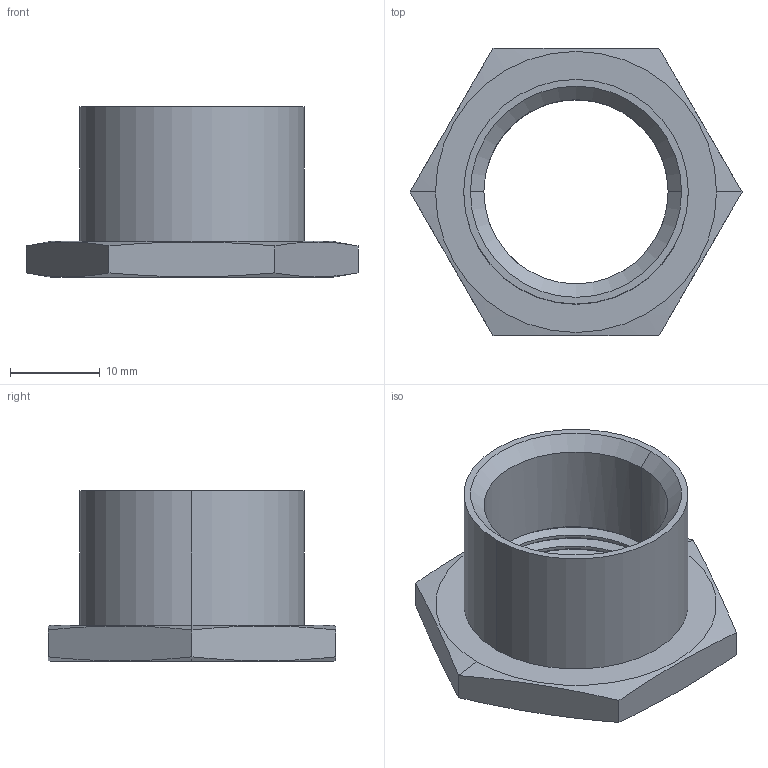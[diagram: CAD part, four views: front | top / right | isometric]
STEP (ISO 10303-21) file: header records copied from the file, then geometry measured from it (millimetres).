
FILE_DESCRIPTION (( 'STEP AP214' ), '1' );
FILE_NAME ('2.TD.001.STEP', '2024-07-11T15:04:20', ( '' ), ( '' ), 'SwSTEP 2.0', 'SolidWorks 2021', '' );
FILE_SCHEMA (( 'AUTOMOTIVE_DESIGN' ));
Length unit declared in the file: millimetre
Products named in the file (1): 2.TD.001
Bounding box: 36.95 x 32 x 19 mm (x, y, z)
Volume: 4302.4 mm3; surface area: 4083.7 mm2
Topology: 1 solids, 1 shells, 32 faces, 91 edges, 62 vertices
Faces by surface type: cylinder 11, plane 10, cone 8, bspline 3
Entity records: 2003 total; most frequent: CARTESIAN_POINT 1145, ORIENTED_EDGE 182, DIRECTION 116, EDGE_CURVE 91, VERTEX_POINT 62, AXIS2_PLACEMENT_3D 45, EDGE_LOOP 35, ADVANCED_FACE 32
